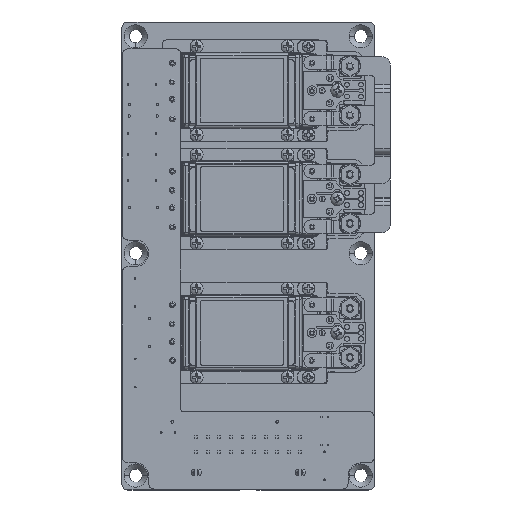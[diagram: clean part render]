
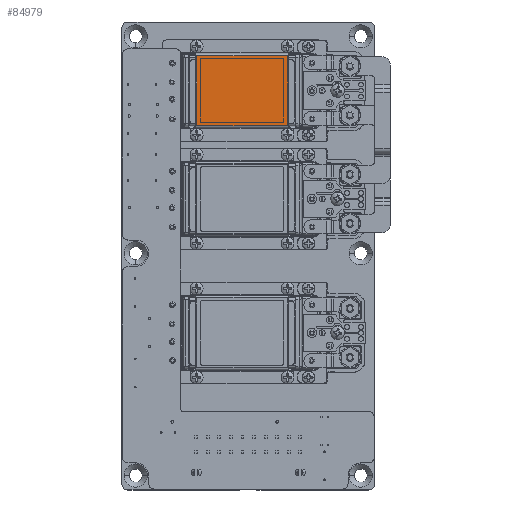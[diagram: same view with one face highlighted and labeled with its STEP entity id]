
A CAD part, top view. The second image highlights one B-rep face of the part: STEP entity #84979.
In plain terms, the highlighted planar face has unit normal (0, 0, 1).
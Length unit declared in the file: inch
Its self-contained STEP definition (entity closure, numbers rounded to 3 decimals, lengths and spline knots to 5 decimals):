
#390 = EDGE_CURVE ( 'NONE', #167599, #166261, #229678, .T. ) ;
#392 = EDGE_CURVE ( 'NONE', #166261, #167514, #229679, .T. ) ;
#394 = EDGE_CURVE ( 'NONE', #165192, #167599, #229681, .T. ) ;
#396 = EDGE_CURVE ( 'NONE', #167514, #165192, #229683, .T. ) ;
#57146 = VECTOR ( 'NONE', #290806, 39.37008 ) ;
#57186 = VECTOR ( 'NONE', #290811, 39.37008 ) ;
#57196 = VECTOR ( 'NONE', #290817, 39.37008 ) ;
#57209 = VECTOR ( 'NONE', #290820, 39.37008 ) ;
#68371 = PLANE ( 'NONE',  #70033 ) ;
#68373 = CARTESIAN_POINT ( 'NONE',  ( 2.38035, -2.0694, 1.88555 ) ) ;
#68374 = DIRECTION ( 'NONE',  ( 0., 0., 1. ) ) ;
#68376 = DIRECTION ( 'NONE',  ( 0., 1., 0. ) ) ;
#69680 = FACE_OUTER_BOUND ( 'NONE', #121209, .T. ) ;
#70033 = AXIS2_PLACEMENT_3D ( 'NONE', #68373, #68374, #68376 ) ;
#84979 = ADVANCED_FACE ( 'NONE', ( #69680 ), #68371, .T. ) ;
#121209 = EDGE_LOOP ( 'NONE', ( #206237, #206103, #206080, #206099 ) ) ;
#165192 = VERTEX_POINT ( 'NONE', #328626 ) ;
#166261 = VERTEX_POINT ( 'NONE', #328933 ) ;
#167514 = VERTEX_POINT ( 'NONE', #329311 ) ;
#167599 = VERTEX_POINT ( 'NONE', #329352 ) ;
#206080 = ORIENTED_EDGE ( 'NONE', *, *, #394, .F. ) ;
#206099 = ORIENTED_EDGE ( 'NONE', *, *, #396, .F. ) ;
#206103 = ORIENTED_EDGE ( 'NONE', *, *, #390, .F. ) ;
#206237 = ORIENTED_EDGE ( 'NONE', *, *, #392, .F. ) ;
#229678 = LINE ( 'NONE', #290805, #57146 ) ;
#229679 = LINE ( 'NONE', #290809, #57186 ) ;
#229681 = LINE ( 'NONE', #290815, #57196 ) ;
#229683 = LINE ( 'NONE', #290819, #57209 ) ;
#290805 = CARTESIAN_POINT ( 'NONE',  ( -6.33611, 4.08195, 1.88555 ) ) ;
#290806 = DIRECTION ( 'NONE',  ( 0., 1., 0. ) ) ;
#290809 = CARTESIAN_POINT ( 'NONE',  ( -5.03221, 4.08195, 1.88555 ) ) ;
#290811 = DIRECTION ( 'NONE',  ( 1., 0., 0. ) ) ;
#290815 = CARTESIAN_POINT ( 'NONE',  ( -6.33611, 3.07895, 1.88555 ) ) ;
#290817 = DIRECTION ( 'NONE',  ( -1., 0., 0. ) ) ;
#290819 = CARTESIAN_POINT ( 'NONE',  ( -5.03221, 3.07895, 1.88555 ) ) ;
#290820 = DIRECTION ( 'NONE',  ( 0., -1., 0. ) ) ;
#328626 = CARTESIAN_POINT ( 'NONE',  ( -5.03221, 3.07895, 1.88555 ) ) ;
#328933 = CARTESIAN_POINT ( 'NONE',  ( -6.33611, 4.08195, 1.88555 ) ) ;
#329311 = CARTESIAN_POINT ( 'NONE',  ( -5.03221, 4.08195, 1.88555 ) ) ;
#329352 = CARTESIAN_POINT ( 'NONE',  ( -6.33611, 3.07895, 1.88555 ) ) ;
